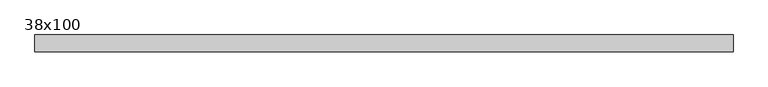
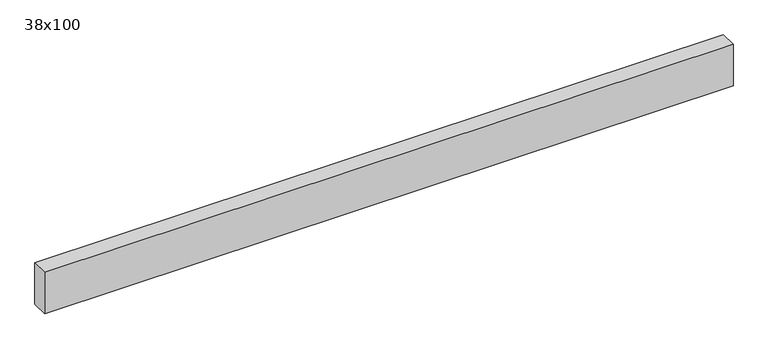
"""IFC4 building model written with IfcOpenShell, lengths in millimetres: beam geometry, Poutre - Bois de construction de dimensions courantes : 38x100."""

import ifcopenshell
import ifcopenshell.guid

model = None  # the IFC model being written
_history = None  # IfcOwnerHistory: only IFC2X3 demands one
_inside = {}  # id of a spatial element -> (the spatial element, [elements in it])
_under = {}  # id of a project, library or spatial element -> (it, [spatial elements below it])
_declared = {}  # id of a project -> (the project, [libraries it declares])
_typed = {}  # id of a type object -> (the type object, [elements of that type])
_made_of = {}  # id of a material, layer set ... -> (it, [elements and type objects made of it])


def new_model(schema):
    """Start an empty IFC model of exactly this schema.

    Asked for "IFC4X3", IfcOpenShell would pick the latest addendum, in which some entities
    have other attributes; the version numbers below select the first issue.
    IFC2X3 requires an IfcOwnerHistory on every rooted entity: one is made here for all.
    """
    global model, _history
    if schema == "IFC4X3":
        model = ifcopenshell.file(schema_version=(4, 3, 0, 0))
    else:
        model = ifcopenshell.file(schema=schema)
    _inside.clear()
    _under.clear()
    _declared.clear()
    _typed.clear()
    _made_of.clear()
    _history = None
    if model.schema == "IFC2X3":
        org = make("IfcOrganization", Name="unknown")
        user = make(
            "IfcPersonAndOrganization",
            ThePerson=make("IfcPerson", FamilyName="unknown"),
            TheOrganization=org,
        )
        app = make(
            "IfcApplication",
            ApplicationDeveloper=org,
            Version="unknown",
            ApplicationFullName="unknown",
            ApplicationIdentifier="unknown",
        )
        _history = make(
            "IfcOwnerHistory",
            OwningUser=user,
            OwningApplication=app,
            ChangeAction="ADDED",
            CreationDate=0,
        )
    return model


def make(cls, **values):
    """One entity of the class cls with the attributes given. An attribute that is None is left unset."""
    return model.create_entity(
        cls, **{name: value for name, value in values.items() if value is not None}
    )


def rooted(cls, **values):
    """An entity with a GlobalId (a new one), such as an element, a storey or a relation."""
    return make(cls, GlobalId=ifcopenshell.guid.new(), OwnerHistory=_history, **values)


def si_unit(unit_type, name, prefix=None):
    """IfcSIUnit, for example si_unit("LENGTHUNIT", "METRE", prefix="MILLI")."""
    return make("IfcSIUnit", UnitType=unit_type, Prefix=prefix, Name=name)


def assignment(units):
    """IfcUnitAssignment: the units of a project."""
    return None if units is None else make("IfcUnitAssignment", Units=units)


def point(xyz):
    """IfcCartesianPoint."""
    return None if xyz is None else make("IfcCartesianPoint", Coordinates=xyz)


def direction(xyz):
    """IfcDirection."""
    return None if xyz is None else make("IfcDirection", DirectionRatios=xyz)


def frame(location, z_axis=None, x_axis=None):
    """IfcAxis2Placement3D, a coordinate frame: its origin and axes. An axis left out is left unset."""
    return make(
        "IfcAxis2Placement3D",
        Location=point(location),
        Axis=direction(z_axis),
        RefDirection=direction(x_axis),
    )


def origin():
    """The frame at (0, 0, 0) with its axes left unset."""
    return frame((0.0, 0.0, 0.0))


def place(relative_to, where):
    """IfcLocalPlacement: puts the frame where relative to a parent placement (None: the world)."""
    return make(
        "IfcLocalPlacement", PlacementRelTo=relative_to, RelativePlacement=where
    )


def context(
    kind, dimensions, precision=None, world=None, true_north=None, identifier=None
):
    """IfcGeometricRepresentationContext, for example the 3D "Model" context."""
    return make(
        "IfcGeometricRepresentationContext",
        ContextIdentifier=identifier,
        ContextType=kind,
        CoordinateSpaceDimension=dimensions,
        Precision=precision,
        WorldCoordinateSystem=world,
        TrueNorth=true_north,
    )


def project(units=None, contexts=None):
    """IfcProject with its units and contexts."""
    return rooted(
        "IfcProject",
        Name="project",
        RepresentationContexts=contexts,
        UnitsInContext=assignment(units),
    )


def spatial(cls, under=None, at=None, **own):
    """A site, building, storey or space (cls), placed at a placement, below another one or the project."""
    s = rooted(cls, ObjectPlacement=at, **own)
    if under is not None:
        _under.setdefault(under.id(), (under, []))[1].append(s)
    return s


def polyline(points):
    """IfcPolyline through the points."""
    return make("IfcPolyline", Points=[point(p) for p in points])


def outline(outer, holes=None, kind="AREA"):
    """IfcArbitraryClosedProfileDef: a profile drawn as a closed curve; with holes, ...WithVoids."""
    if holes is None:
        return make("IfcArbitraryClosedProfileDef", ProfileType=kind, OuterCurve=outer)
    return make(
        "IfcArbitraryProfileDefWithVoids",
        ProfileType=kind,
        OuterCurve=outer,
        InnerCurves=holes,
    )


def extrude(swept, where, along, depth):
    """IfcExtrudedAreaSolid: the profile swept, set in the frame where, extruded along a direction by depth."""
    return make(
        "IfcExtrudedAreaSolid",
        SweptArea=swept,
        Position=where,
        ExtrudedDirection=direction(along),
        Depth=depth,
    )


def shape(context_of_items, identifier, shape_type, items):
    """IfcShapeRepresentation: the items that make up one representation, for example the "Body"."""
    return make(
        "IfcShapeRepresentation",
        ContextOfItems=context_of_items,
        RepresentationIdentifier=identifier,
        RepresentationType=shape_type,
        Items=items,
    )


def source(mapping_origin, context_of_items, identifier, shape_type, items):
    """IfcRepresentationMap: a shape defined once, which mapped items show again and again."""
    return make(
        "IfcRepresentationMap",
        MappingOrigin=mapping_origin,
        MappedRepresentation=shape(context_of_items, identifier, shape_type, items),
    )


def transform(
    local_origin,
    x_axis=None,
    y_axis=None,
    z_axis=None,
    scale=None,
    scale2=None,
    scale3=None,
    uniform=True,
):
    """IfcCartesianTransformationOperator3D, or its non-uniform kind. x_axis, y_axis, z_axis: its Axis1, 2, 3."""
    if uniform:
        return make(
            "IfcCartesianTransformationOperator3D",
            Axis1=direction(x_axis),
            Axis2=direction(y_axis),
            LocalOrigin=point(local_origin),
            Scale=scale,
            Axis3=direction(z_axis),
        )
    return make(
        "IfcCartesianTransformationOperator3DnonUniform",
        Axis1=direction(x_axis),
        Axis2=direction(y_axis),
        LocalOrigin=point(local_origin),
        Scale=scale,
        Axis3=direction(z_axis),
        Scale2=scale2,
        Scale3=scale3,
    )


def mapped(mapping_source, mapping_target):
    """IfcMappedItem: shows the shape of a source again, moved by a transform."""
    return make(
        "IfcMappedItem", MappingSource=mapping_source, MappingTarget=mapping_target
    )


def made_of(thing, what):
    """Note that an element or type object is made of a material, layer set ...; save() writes the relation."""
    if what is not None:
        _made_of.setdefault(what.id(), (what, []))[1].append(thing)
    return thing


def element(
    cls,
    number,
    at=None,
    inside=None,
    cuts=None,
    type_object=None,
    material=None,
    context=None,
    identifier="Body",
    shape_type=None,
    held_by="IfcProductDefinitionShape",
    body=None,
    shapes=None,
    **own,
):
    """One element of the class cls, such as IfcWall. Its Tag is "e" and its number.

    at: its placement. inside: the storey or other place that contains it. cuts: it is an
    opening in that element (IfcRelVoidsElement). A single representation is given by context,
    identifier, shape_type and body (its items); several are given by shapes. held_by: the class
    of the entity that holds the representations. save() writes the other relations.
    """
    e = rooted(cls, Tag="e%d" % number, ObjectPlacement=at, **own)
    if body is not None:
        shapes = [shape(context, identifier, shape_type, body)]
    if shapes is not None:
        e.Representation = make(held_by, Representations=shapes)
    if inside is not None:
        _inside.setdefault(inside.id(), (inside, []))[1].append(e)
    if cuts is not None:
        rooted(
            "IfcRelVoidsElement", RelatingBuildingElement=cuts, RelatedOpeningElement=e
        )
    if type_object is not None:
        _typed.setdefault(type_object.id(), (type_object, []))[1].append(e)
    return made_of(e, material)


def aggregate(whole, parts):
    """IfcRelAggregates: a whole, such as a stair, and the parts it consists of."""
    return rooted("IfcRelAggregates", RelatingObject=whole, RelatedObjects=parts)


def save(model, path):
    """Write the relations noted so far, then the file.

    IfcRelAggregates (storeys below a building ...), IfcRelContainedInSpatialStructure (elements
    in a storey), IfcRelDefinesByType, IfcRelAssociatesMaterial and IfcRelDeclares: one each for
    every whole, place, type object, material and project.
    """
    for whole, parts in _under.values():
        aggregate(whole, parts)
    for where, things in _inside.values():
        rooted(
            "IfcRelContainedInSpatialStructure",
            RelatedElements=things,
            RelatingStructure=where,
        )
    for kind, things in _typed.values():
        rooted("IfcRelDefinesByType", RelatedObjects=things, RelatingType=kind)
    for what, things in _made_of.values():
        rooted("IfcRelAssociatesMaterial", RelatedObjects=things, RelatingMaterial=what)
    for by, libraries in _declared.values():
        rooted("IfcRelDeclares", RelatingContext=by, RelatedDefinitions=libraries)
    model.write(path)


def beam_38x100_b7d63146(model_context):
    return source(origin(), model_context, "Body", "SweptSolid", [
        extrude(outline(polyline([(760.0, 19.05), (760.0, -19.05), (-819.0, -19.05), (-819.0, 19.05), (760.0, 19.05)])), frame((0.0, 0.0, -50.0), z_axis=(0.0, 0.0, 1.0), x_axis=(1.0, 0.0, 0.0)), (0.0, 0.0, 1.0), 100.0),
    ])


if __name__ == "__main__":
    model = new_model("IFC4")
    model_context = context("Model", 3, world=origin())
    ifc_project = project(units=[si_unit("LENGTHUNIT", "METRE", prefix="MILLI")], contexts=[model_context])
    site = spatial("IfcSite", under=ifc_project)
    building = spatial("IfcBuilding", under=site)
    placement = place(None, origin())
    beam_38x100_shape = beam_38x100_b7d63146(model_context)
    element("IfcBeam", 1, ObjectType="Poutre - Bois de construction de dimensions courantes : 38x100", at=placement, inside=building, context=model_context, shape_type="MappedRepresentation", body=[
        mapped(beam_38x100_shape, transform((0.0, 0.0, 0.0), x_axis=(1.0, 0.0, 0.0), y_axis=(0.0, 1.0, 0.0), z_axis=(0.0, 0.0, 1.0))),
    ])
    save(model, "model.ifc")
